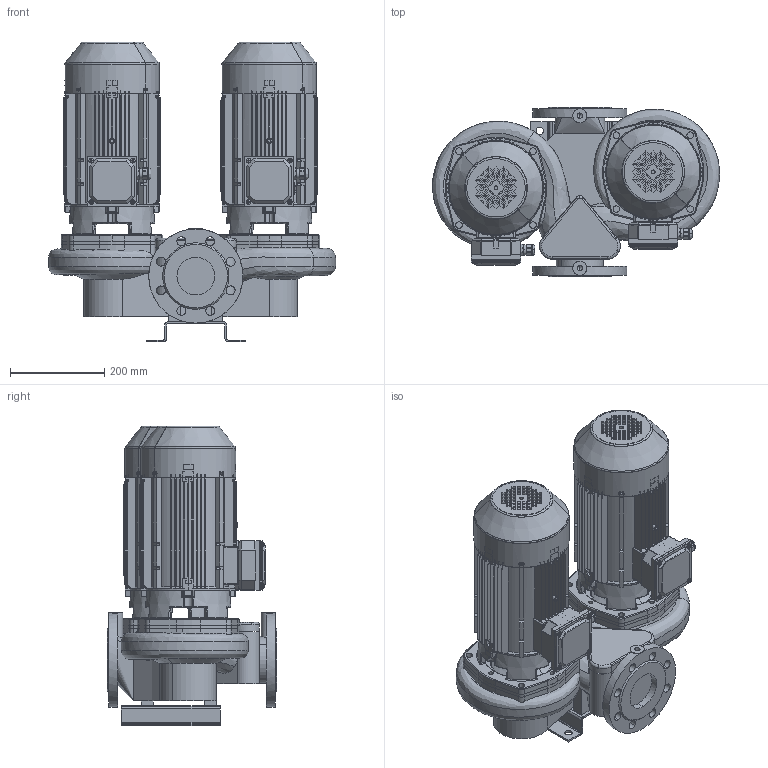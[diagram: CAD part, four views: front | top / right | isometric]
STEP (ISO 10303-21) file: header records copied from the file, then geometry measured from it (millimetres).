
FILE_DESCRIPTION(('STEP AP214'),'1');
FILE_NAME('export.stp','2018-05-30T07:57:38',(' '),(' '),'Spatial InterOp 3D',' ',' ');
FILE_SCHEMA(('AUTOMOTIVE_DESIGN { 1 0 10303 214 1 1 1 1 }'));
Length unit declared in the file: millimetre
Products named in the file (23): W_T80A4300_KP100; V_TLL65AB80A1102; V_PPT80A; V_JALKA35973; 160027; 160005; V_MKP100-1_F19; 160141; 160137; 160138; 160139; 160140; Koura_Ale_M5; Plug_Blind_M20; Sealing_Plug_M20; DIN_7985-M5X8; DIN_7985-M5X12; 160059___; 160060___; 160136
Assembly tree (42 placements, depth 4):
  W_T80A4300_KP100
    V_TLL65AB80A1102  x2
    V_PPT80A
    V_JALKA35973
    V_MKP100-1_F19
      160027
        160005
      160141
        160137
        160138
        160139
        160140
        Koura_Ale_M5
        Plug_Blind_M20
        Sealing_Plug_M20
        DIN_7985-M5X8
        DIN_7985-M5X12  x4
      160059___
      160060___
      160136
    V_MKP100-1_F19
      160027
        160005
      160141
        160137
        160138
        160139
        160140
        Koura_Ale_M5
        Plug_Blind_M20
        Sealing_Plug_M20
        DIN_7985-M5X8
        DIN_7985-M5X12  x4
      160059___
      160060___
      160136
Bounding box: 609.87 x 360 x 637 mm (x, y, z)
Volume: 23506749.1 mm3; surface area: 5542436.3 mm2
Topology: 38 solids, 39 shells, 4767 faces, 12759 edges, 8090 vertices
Faces by surface type: plane 2083, cylinder 1447, torus 482, bspline 443, cone 282, sphere 30
Entity records: 100013 total; most frequent: CARTESIAN_POINT 34334, ORIENTED_EDGE 13204, DIRECTION 12177, EDGE_CURVE 6602, AXIS2_PLACEMENT_3D 4548, VERTEX_POINT 4215, LINE 3081, VECTOR 3081
